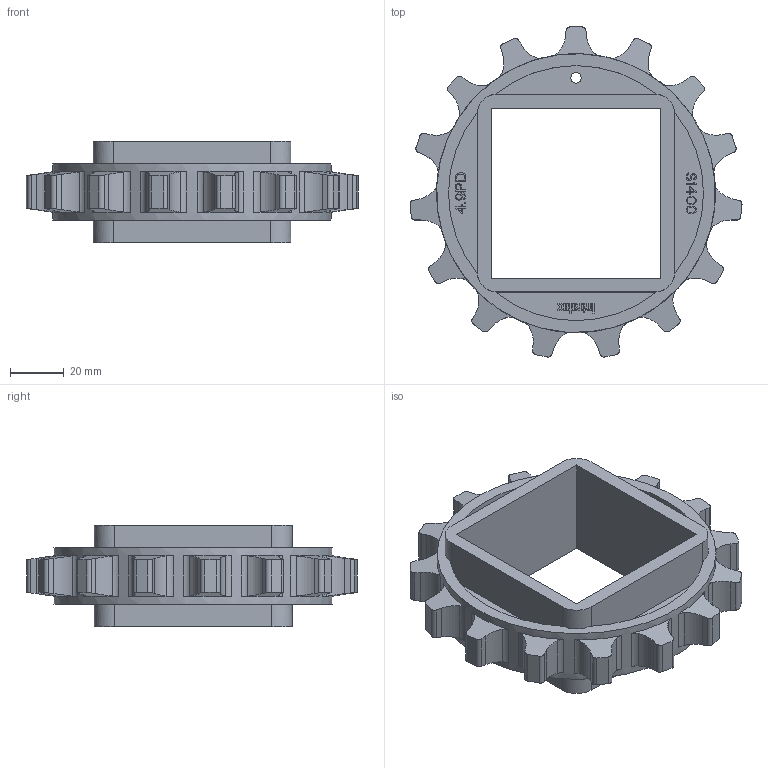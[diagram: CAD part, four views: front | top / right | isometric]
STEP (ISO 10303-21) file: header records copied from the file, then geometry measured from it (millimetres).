
FILE_DESCRIPTION((''),'2;1');
FILE_NAME('S1400_SPROCKET_49X25_60_SQ','2012-07-05T',('rklein'),('INTRALOX'),'PRO/ENGINEER BY PARAMETRIC TECHNOLOGY CORPORATION, 2009460','PRO/ENGINEER BY PARAMETRIC TECHNOLOGY CORPORATION, 2009460','');
FILE_SCHEMA(('CONFIG_CONTROL_DESIGN'));
Length unit declared in the file: inch
Products named in the file (1): S1400_SPROCKET_49X25_60_SQ
Bounding box: 124.04 x 123.38 x 38.1 mm (x, y, z)
Volume: 109463 mm3; surface area: 43769.3 mm2
Topology: 1 solids, 1 shells, 644 faces, 1791 edges, 1194 vertices
Faces by surface type: plane 492, cylinder 152
Entity records: 20873 total; most frequent: CARTESIAN_POINT 4559, ORIENTED_EDGE 3582, DIRECTION 3009, EDGE_CURVE 1791, VECTOR 1441, LINE 1441, VERTEX_POINT 1194, AXIS2_PLACEMENT_3D 784
